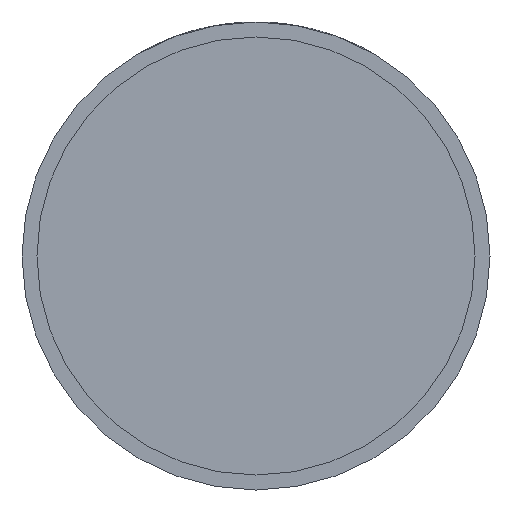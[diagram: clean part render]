
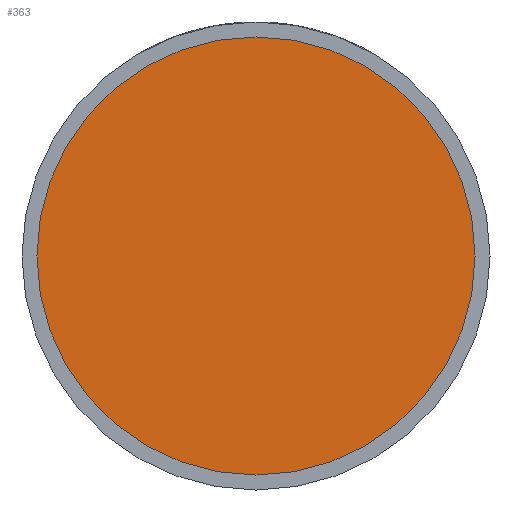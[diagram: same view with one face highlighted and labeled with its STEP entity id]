
A CAD part, front view. The second image highlights one B-rep face of the part: STEP entity #363.
In plain terms, the highlighted planar face has unit normal (0, -1, 0).
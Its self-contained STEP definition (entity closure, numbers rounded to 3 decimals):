
#298 = EDGE_CURVE ( 'NONE', #3078, #2623, #2699, .T. ) ;
#327 = DIRECTION ( 'NONE',  ( 0., -1., 0. ) ) ;
#363 = ADVANCED_FACE ( 'NONE', ( #1073 ), #2478, .T. ) ;
#404 = AXIS2_PLACEMENT_3D ( 'NONE', #3216, #4221, #1221 ) ;
#808 = AXIS2_PLACEMENT_3D ( 'NONE', #1992, #327, #2411 ) ;
#877 = AXIS2_PLACEMENT_3D ( 'NONE', #3772, #2761, #1798 ) ;
#1073 = FACE_OUTER_BOUND ( 'NONE', #3463, .T. ) ;
#1103 = CIRCLE ( 'NONE', #404, 33.7 ) ;
#1221 = DIRECTION ( 'NONE',  ( 1., 0., 0. ) ) ;
#1776 = ORIENTED_EDGE ( 'NONE', *, *, #2007, .T. ) ;
#1798 = DIRECTION ( 'NONE',  ( 1., 0., 0. ) ) ;
#1992 = CARTESIAN_POINT ( 'NONE',  ( 0., -20., 0. ) ) ;
#2007 = EDGE_CURVE ( 'NONE', #2623, #3078, #1103, .T. ) ;
#2411 = DIRECTION ( 'NONE',  ( 1., 0., 0. ) ) ;
#2478 = PLANE ( 'NONE',  #877 ) ;
#2623 = VERTEX_POINT ( 'NONE', #3687 ) ;
#2699 = CIRCLE ( 'NONE', #808, 33.7 ) ;
#2761 = DIRECTION ( 'NONE',  ( 0., -1., 0. ) ) ;
#3078 = VERTEX_POINT ( 'NONE', #3967 ) ;
#3216 = CARTESIAN_POINT ( 'NONE',  ( 0., -20., 0. ) ) ;
#3463 = EDGE_LOOP ( 'NONE', ( #3825, #1776 ) ) ;
#3687 = CARTESIAN_POINT ( 'NONE',  ( -33.7, -20., 0. ) ) ;
#3772 = CARTESIAN_POINT ( 'NONE',  ( 33.7, -20., 0. ) ) ;
#3825 = ORIENTED_EDGE ( 'NONE', *, *, #298, .T. ) ;
#3967 = CARTESIAN_POINT ( 'NONE',  ( 33.7, -20., 0. ) ) ;
#4221 = DIRECTION ( 'NONE',  ( 0., -1., 0. ) ) ;
